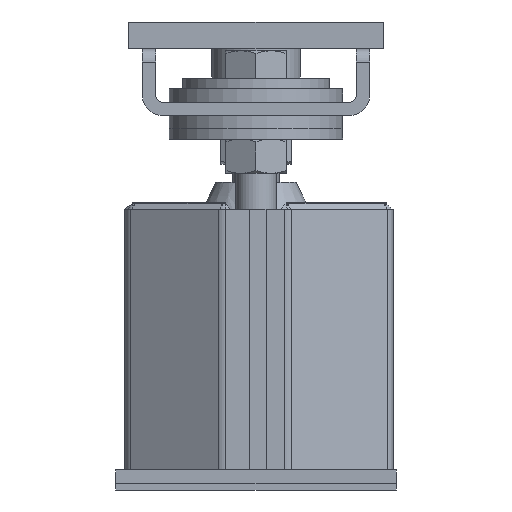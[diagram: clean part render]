
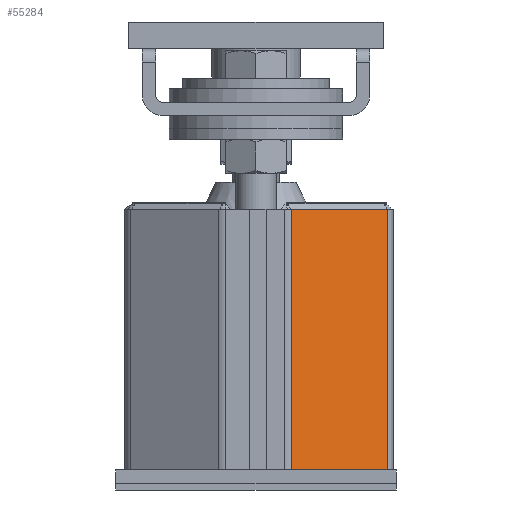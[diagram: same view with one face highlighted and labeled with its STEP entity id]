
A CAD part, left-side view. The second image highlights one B-rep face of the part: STEP entity #55284.
In plain terms, the highlighted planar face has unit normal (-0.875, -0.485, 0).
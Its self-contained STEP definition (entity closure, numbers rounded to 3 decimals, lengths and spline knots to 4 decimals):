
#6383=LINE('',#85308,#12883);
#6388=LINE('',#85317,#12888);
#6389=LINE('',#85320,#12889);
#6390=LINE('',#85321,#12890);
#12883=VECTOR('',#70578,4.875);
#12888=VECTOR('',#70587,2.0719);
#12889=VECTOR('',#70590,4.875);
#12890=VECTOR('',#70591,2.0719);
#15829=PLANE('',#58424);
#19386=FACE_OUTER_BOUND('',#22958,.T.);
#22958=EDGE_LOOP('',(#47891,#47892,#47893,#47894));
#28008=VERTEX_POINT('',#85290);
#28011=VERTEX_POINT('',#85298);
#28016=VERTEX_POINT('',#85315);
#28017=VERTEX_POINT('',#85319);
#34736=EDGE_CURVE('',#28011,#28008,#6383,.T.);
#34741=EDGE_CURVE('',#28016,#28008,#6388,.T.);
#34742=EDGE_CURVE('',#28016,#28017,#6389,.T.);
#34743=EDGE_CURVE('',#28011,#28017,#6390,.T.);
#47891=ORIENTED_EDGE('',*,*,#34736,.T.);
#47892=ORIENTED_EDGE('',*,*,#34741,.F.);
#47893=ORIENTED_EDGE('',*,*,#34742,.T.);
#47894=ORIENTED_EDGE('',*,*,#34743,.F.);
#55284=ADVANCED_FACE('',(#19386),#15829,.T.);
#58424=AXIS2_PLACEMENT_3D('',#85318,#70588,#70589);
#70578=DIRECTION('',(0.,0.,-1.));
#70587=DIRECTION('',(-0.485,0.875,0.));
#70588=DIRECTION('center_axis',(-0.875,-0.485,0.));
#70589=DIRECTION('ref_axis',(0.485,-0.875,0.));
#70590=DIRECTION('',(0.,0.,1.));
#70591=DIRECTION('',(0.485,-0.875,0.));
#85290=CARTESIAN_POINT('',(-5.7499,-0.6551,0.375));
#85298=CARTESIAN_POINT('',(-5.7499,-0.6551,5.25));
#85308=CARTESIAN_POINT('',(-5.7499,-0.6551,4.0313));
#85315=CARTESIAN_POINT('',(-4.7454,-2.4672,0.375));
#85317=CARTESIAN_POINT('',(-5.962,-0.2725,0.375));
#85318=CARTESIAN_POINT('Origin',(-4.1591,-3.5249,2.8125));
#85319=CARTESIAN_POINT('',(-4.7454,-2.4672,5.25));
#85320=CARTESIAN_POINT('',(-4.7454,-2.4672,1.5938));
#85321=CARTESIAN_POINT('',(-2.3562,-6.7774,5.25));
